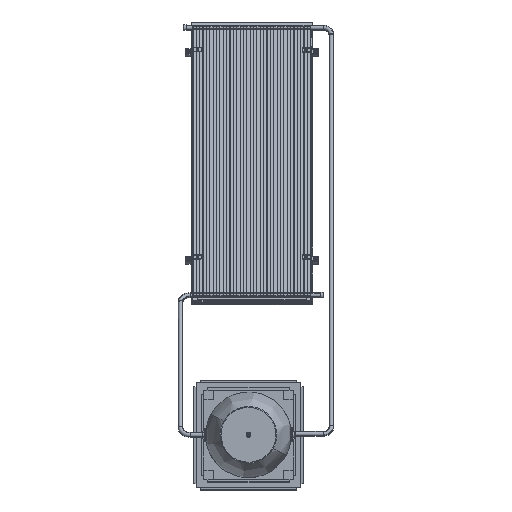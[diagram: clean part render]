
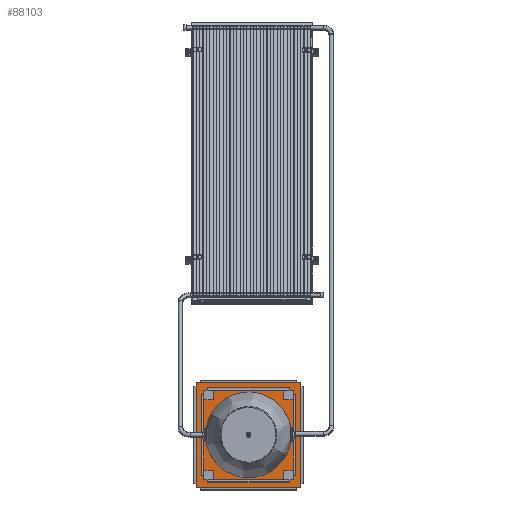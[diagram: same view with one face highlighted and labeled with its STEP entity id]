
A CAD part, top view. The second image highlights one B-rep face of the part: STEP entity #88103.
In plain terms, the highlighted planar face has unit normal (0, 0, 1).
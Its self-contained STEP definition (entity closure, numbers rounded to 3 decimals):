
#87580=CARTESIAN_POINT('Vertex',(-275.,-1715.,564.31)) ;
#87583=CARTESIAN_POINT('Line Origine',(-275.,-1440.,564.31)) ;
#87587=CARTESIAN_POINT('Vertex',(-275.,-1165.,564.31)) ;
#87879=CARTESIAN_POINT('Vertex',(275.,-1715.,564.31)) ;
#87882=CARTESIAN_POINT('Line Origine',(0.,-1715.,564.31)) ;
#87944=CARTESIAN_POINT('Axis2P3D Location',(0.,0.,564.31)) ;
#87949=CARTESIAN_POINT('Line Origine',(275.,-1440.,564.31)) ;
#87953=CARTESIAN_POINT('Vertex',(275.,-1165.,564.31)) ;
#87956=CARTESIAN_POINT('Line Origine',(0.,-1165.,564.31)) ;
#87967=CARTESIAN_POINT('Line Origine',(-235.,-1230.,564.31)) ;
#87971=CARTESIAN_POINT('Vertex',(-235.,-1205.,564.31)) ;
#87973=CARTESIAN_POINT('Vertex',(-235.,-1255.,564.31)) ;
#87976=CARTESIAN_POINT('Line Origine',(-210.,-1205.,564.31)) ;
#87980=CARTESIAN_POINT('Vertex',(-185.,-1205.,564.31)) ;
#87983=CARTESIAN_POINT('Line Origine',(-185.,-1230.,564.31)) ;
#87987=CARTESIAN_POINT('Vertex',(-185.,-1255.,564.31)) ;
#87990=CARTESIAN_POINT('Line Origine',(-210.,-1255.,564.31)) ;
#88001=CARTESIAN_POINT('Line Origine',(-185.,-1650.,564.31)) ;
#88005=CARTESIAN_POINT('Vertex',(-185.,-1675.,564.31)) ;
#88007=CARTESIAN_POINT('Vertex',(-185.,-1625.,564.31)) ;
#88010=CARTESIAN_POINT('Line Origine',(-210.,-1675.,564.31)) ;
#88014=CARTESIAN_POINT('Vertex',(-235.,-1675.,564.31)) ;
#88017=CARTESIAN_POINT('Line Origine',(-235.,-1650.,564.31)) ;
#88021=CARTESIAN_POINT('Vertex',(-235.,-1625.,564.31)) ;
#88024=CARTESIAN_POINT('Line Origine',(-210.,-1625.,564.31)) ;
#88035=CARTESIAN_POINT('Line Origine',(185.,-1230.,564.31)) ;
#88039=CARTESIAN_POINT('Vertex',(185.,-1205.,564.31)) ;
#88041=CARTESIAN_POINT('Vertex',(185.,-1255.,564.31)) ;
#88044=CARTESIAN_POINT('Line Origine',(210.,-1205.,564.31)) ;
#88048=CARTESIAN_POINT('Vertex',(235.,-1205.,564.31)) ;
#88051=CARTESIAN_POINT('Line Origine',(235.,-1230.,564.31)) ;
#88055=CARTESIAN_POINT('Vertex',(235.,-1255.,564.31)) ;
#88058=CARTESIAN_POINT('Line Origine',(210.,-1255.,564.31)) ;
#88069=CARTESIAN_POINT('Line Origine',(235.,-1650.,564.31)) ;
#88073=CARTESIAN_POINT('Vertex',(235.,-1675.,564.31)) ;
#88075=CARTESIAN_POINT('Vertex',(235.,-1625.,564.31)) ;
#88078=CARTESIAN_POINT('Line Origine',(210.,-1675.,564.31)) ;
#88082=CARTESIAN_POINT('Vertex',(185.,-1675.,564.31)) ;
#88085=CARTESIAN_POINT('Line Origine',(185.,-1650.,564.31)) ;
#88089=CARTESIAN_POINT('Vertex',(185.,-1625.,564.31)) ;
#88092=CARTESIAN_POINT('Line Origine',(210.,-1625.,564.31)) ;
#87584=DIRECTION('Vector Direction',(0.,-1.,0.)) ;
#87883=DIRECTION('Vector Direction',(-1.,0.,0.)) ;
#87945=DIRECTION('Axis2P3D Direction',(0.,0.,-1.)) ;
#87946=DIRECTION('Axis2P3D XDirection',(-1.,-0.,-0.)) ;
#87950=DIRECTION('Vector Direction',(0.,-1.,0.)) ;
#87957=DIRECTION('Vector Direction',(-1.,0.,0.)) ;
#87968=DIRECTION('Vector Direction',(0.,-1.,0.)) ;
#87977=DIRECTION('Vector Direction',(1.,0.,0.)) ;
#87984=DIRECTION('Vector Direction',(0.,1.,0.)) ;
#87991=DIRECTION('Vector Direction',(-1.,0.,0.)) ;
#88002=DIRECTION('Vector Direction',(0.,-1.,0.)) ;
#88011=DIRECTION('Vector Direction',(1.,0.,0.)) ;
#88018=DIRECTION('Vector Direction',(0.,1.,0.)) ;
#88025=DIRECTION('Vector Direction',(-1.,0.,0.)) ;
#88036=DIRECTION('Vector Direction',(0.,1.,0.)) ;
#88045=DIRECTION('Vector Direction',(-1.,0.,0.)) ;
#88052=DIRECTION('Vector Direction',(0.,-1.,0.)) ;
#88059=DIRECTION('Vector Direction',(1.,0.,0.)) ;
#88070=DIRECTION('Vector Direction',(0.,1.,0.)) ;
#88079=DIRECTION('Vector Direction',(-1.,0.,0.)) ;
#88086=DIRECTION('Vector Direction',(0.,-1.,0.)) ;
#88093=DIRECTION('Vector Direction',(1.,0.,0.)) ;
#87947=AXIS2_PLACEMENT_3D('Plane Axis2P3D',#87944,#87945,#87946) ;
#87962=ORIENTED_EDGE('',*,*,#87955,.F.) ;
#87963=ORIENTED_EDGE('',*,*,#87960,.F.) ;
#87964=ORIENTED_EDGE('',*,*,#87589,.F.) ;
#87965=ORIENTED_EDGE('',*,*,#87886,.F.) ;
#87996=ORIENTED_EDGE('',*,*,#87975,.F.) ;
#87997=ORIENTED_EDGE('',*,*,#87982,.F.) ;
#87998=ORIENTED_EDGE('',*,*,#87989,.F.) ;
#87999=ORIENTED_EDGE('',*,*,#87994,.F.) ;
#88030=ORIENTED_EDGE('',*,*,#88009,.F.) ;
#88031=ORIENTED_EDGE('',*,*,#88016,.F.) ;
#88032=ORIENTED_EDGE('',*,*,#88023,.F.) ;
#88033=ORIENTED_EDGE('',*,*,#88028,.F.) ;
#88064=ORIENTED_EDGE('',*,*,#88043,.F.) ;
#88065=ORIENTED_EDGE('',*,*,#88050,.F.) ;
#88066=ORIENTED_EDGE('',*,*,#88057,.F.) ;
#88067=ORIENTED_EDGE('',*,*,#88062,.F.) ;
#88098=ORIENTED_EDGE('',*,*,#88077,.F.) ;
#88099=ORIENTED_EDGE('',*,*,#88084,.F.) ;
#88100=ORIENTED_EDGE('',*,*,#88091,.F.) ;
#88101=ORIENTED_EDGE('',*,*,#88096,.F.) ;
#88000=FACE_BOUND('',#87995,.T.) ;
#88034=FACE_BOUND('',#88029,.T.) ;
#88068=FACE_BOUND('',#88063,.T.) ;
#88102=FACE_BOUND('',#88097,.T.) ;
#87585=VECTOR('Line Direction',#87584,1.) ;
#87884=VECTOR('Line Direction',#87883,1.) ;
#87951=VECTOR('Line Direction',#87950,1.) ;
#87958=VECTOR('Line Direction',#87957,1.) ;
#87969=VECTOR('Line Direction',#87968,1.) ;
#87978=VECTOR('Line Direction',#87977,1.) ;
#87985=VECTOR('Line Direction',#87984,1.) ;
#87992=VECTOR('Line Direction',#87991,1.) ;
#88003=VECTOR('Line Direction',#88002,1.) ;
#88012=VECTOR('Line Direction',#88011,1.) ;
#88019=VECTOR('Line Direction',#88018,1.) ;
#88026=VECTOR('Line Direction',#88025,1.) ;
#88037=VECTOR('Line Direction',#88036,1.) ;
#88046=VECTOR('Line Direction',#88045,1.) ;
#88053=VECTOR('Line Direction',#88052,1.) ;
#88060=VECTOR('Line Direction',#88059,1.) ;
#88071=VECTOR('Line Direction',#88070,1.) ;
#88080=VECTOR('Line Direction',#88079,1.) ;
#88087=VECTOR('Line Direction',#88086,1.) ;
#88094=VECTOR('Line Direction',#88093,1.) ;
#88103=ADVANCED_FACE('PartBody',(#87966,#88000,#88034,#88068,#88102),#87948,.F.) ;
#87589=EDGE_CURVE('',#87581,#87588,#87586,.F.) ;
#87886=EDGE_CURVE('',#87880,#87581,#87885,.T.) ;
#87955=EDGE_CURVE('',#87954,#87880,#87952,.T.) ;
#87960=EDGE_CURVE('',#87588,#87954,#87959,.F.) ;
#87975=EDGE_CURVE('',#87972,#87974,#87970,.T.) ;
#87982=EDGE_CURVE('',#87981,#87972,#87979,.F.) ;
#87989=EDGE_CURVE('',#87988,#87981,#87986,.T.) ;
#87994=EDGE_CURVE('',#87974,#87988,#87993,.F.) ;
#88009=EDGE_CURVE('',#88006,#88008,#88004,.F.) ;
#88016=EDGE_CURVE('',#88015,#88006,#88013,.T.) ;
#88023=EDGE_CURVE('',#88022,#88015,#88020,.F.) ;
#88028=EDGE_CURVE('',#88008,#88022,#88027,.T.) ;
#88043=EDGE_CURVE('',#88040,#88042,#88038,.F.) ;
#88050=EDGE_CURVE('',#88049,#88040,#88047,.T.) ;
#88057=EDGE_CURVE('',#88056,#88049,#88054,.F.) ;
#88062=EDGE_CURVE('',#88042,#88056,#88061,.T.) ;
#88077=EDGE_CURVE('',#88074,#88076,#88072,.T.) ;
#88084=EDGE_CURVE('',#88083,#88074,#88081,.F.) ;
#88091=EDGE_CURVE('',#88090,#88083,#88088,.T.) ;
#88096=EDGE_CURVE('',#88076,#88090,#88095,.F.) ;
#87961=EDGE_LOOP('',(#87962,#87963,#87964,#87965)) ;
#87995=EDGE_LOOP('',(#87996,#87997,#87998,#87999)) ;
#88029=EDGE_LOOP('',(#88030,#88031,#88032,#88033)) ;
#88063=EDGE_LOOP('',(#88064,#88065,#88066,#88067)) ;
#88097=EDGE_LOOP('',(#88098,#88099,#88100,#88101)) ;
#87966=FACE_OUTER_BOUND('',#87961,.T.) ;
#87586=LINE('Line',#87583,#87585) ;
#87885=LINE('Line',#87882,#87884) ;
#87952=LINE('Line',#87949,#87951) ;
#87959=LINE('Line',#87956,#87958) ;
#87970=LINE('Line',#87967,#87969) ;
#87979=LINE('Line',#87976,#87978) ;
#87986=LINE('Line',#87983,#87985) ;
#87993=LINE('Line',#87990,#87992) ;
#88004=LINE('Line',#88001,#88003) ;
#88013=LINE('Line',#88010,#88012) ;
#88020=LINE('Line',#88017,#88019) ;
#88027=LINE('Line',#88024,#88026) ;
#88038=LINE('Line',#88035,#88037) ;
#88047=LINE('Line',#88044,#88046) ;
#88054=LINE('Line',#88051,#88053) ;
#88061=LINE('Line',#88058,#88060) ;
#88072=LINE('Line',#88069,#88071) ;
#88081=LINE('Line',#88078,#88080) ;
#88088=LINE('Line',#88085,#88087) ;
#88095=LINE('Line',#88092,#88094) ;
#87948=PLANE('Plane',#87947) ;
#87581=VERTEX_POINT('',#87580) ;
#87588=VERTEX_POINT('',#87587) ;
#87880=VERTEX_POINT('',#87879) ;
#87954=VERTEX_POINT('',#87953) ;
#87972=VERTEX_POINT('',#87971) ;
#87974=VERTEX_POINT('',#87973) ;
#87981=VERTEX_POINT('',#87980) ;
#87988=VERTEX_POINT('',#87987) ;
#88006=VERTEX_POINT('',#88005) ;
#88008=VERTEX_POINT('',#88007) ;
#88015=VERTEX_POINT('',#88014) ;
#88022=VERTEX_POINT('',#88021) ;
#88040=VERTEX_POINT('',#88039) ;
#88042=VERTEX_POINT('',#88041) ;
#88049=VERTEX_POINT('',#88048) ;
#88056=VERTEX_POINT('',#88055) ;
#88074=VERTEX_POINT('',#88073) ;
#88076=VERTEX_POINT('',#88075) ;
#88083=VERTEX_POINT('',#88082) ;
#88090=VERTEX_POINT('',#88089) ;
